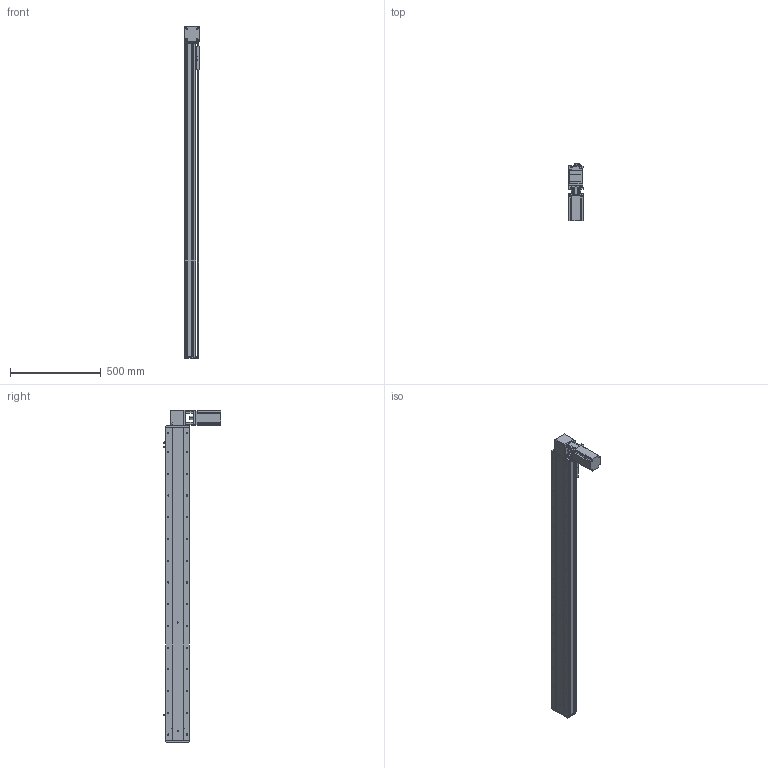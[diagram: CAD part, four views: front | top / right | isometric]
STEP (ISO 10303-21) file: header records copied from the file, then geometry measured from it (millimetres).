
FILE_DESCRIPTION (( 'STEP AP214' ), '1' );
FILE_NAME ('KSD130B-S1500-MLT-CM.STEP', '2019-09-23T07:33:26', ( '微软用户' ), ( '微软中国' ), 'SwSTEP 2.0', 'SolidWorks 2014', '' );
FILE_SCHEMA (( 'AUTOMOTIVE_DESIGN' ));
Length unit declared in the file: millimetre
Products named in the file (12): 台达ECMA－C20807AS伺服电机; 130宽马达安装板1-带电机座750W（1）; 覜茼え100遵圉猾敕; U倰嫖萇EEㄜSX672; 130宽安装板同步带带电机座750W; 130宽盖板半封闭同步带-1500行程; 130宽马达安装板同步带左-改; 130宽马达安装板同步带半封闭; 130宽同步带安装座半封闭; 130宽端盖同步带半封闭; 130宽底板半封闭同步带-1500行程; KSD130B-S1500-MLT-CM
Assembly tree (13 placements, depth 2):
  KSD130B-S1500-MLT-CM
    130宽底板半封闭同步带-1500行程
    130宽端盖同步带半封闭
    130宽同步带安装座半封闭
    130宽马达安装板同步带半封闭
    130宽马达安装板同步带左-改
    130宽盖板半封闭同步带-1500行程
    130宽安装板同步带带电机座750W
    U倰嫖萇EEㄜSX672  x3
    覜茼え100遵圉猾敕
    130宽马达安装板1-带电机座750W（1）
    台达ECMA－C20807AS伺服电机
Bounding box: 81 x 316 x 1833 mm (x, y, z)
Volume: 6312191.9 mm3; surface area: 1726638.7 mm2
Topology: 14 solids, 14 shells, 1649 faces, 4772 edges, 3031 vertices
Faces by surface type: cylinder 811, plane 625, cone 213
Entity records: 55655 total; most frequent: CARTESIAN_POINT 10665, DIRECTION 8406, ORIENTED_EDGE 8116, EDGE_CURVE 4058, AXIS2_PLACEMENT_3D 3104, VERTEX_POINT 2655, LINE 2198, VECTOR 2198
